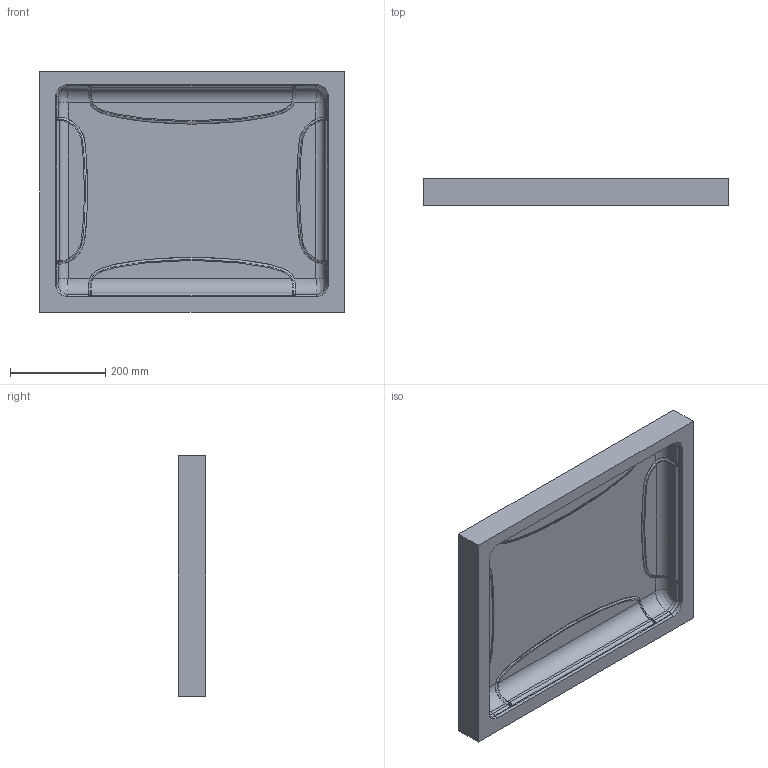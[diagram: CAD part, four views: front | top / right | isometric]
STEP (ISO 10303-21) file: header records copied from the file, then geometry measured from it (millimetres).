
FILE_DESCRIPTION (( 'STEP AP203' ), '1' );
FILE_NAME ('945_Top.STEP', '2014-06-12T13:43:01', ( 'Ben laptop' ), ( 'Microsoft' ), 'SwSTEP 2.0', 'SolidWorks 2014', '' );
FILE_SCHEMA (( 'CONFIG_CONTROL_DESIGN' ));
Length unit declared in the file: inch
Products named in the file (1): 945_Top
Bounding box: 638.12 x 57.84 x 505.43 mm (x, y, z)
Volume: 6196358.4 mm3; surface area: 849767.6 mm2
Topology: 1 solids, 1 shells, 227 faces, 520 edges, 296 vertices
Faces by surface type: bspline 140, cylinder 40, plane 27, torus 8, sphere 8, cone 4
Entity records: 25007 total; most frequent: CARTESIAN_POINT 20742, ORIENTED_EDGE 1040, DIRECTION 660, EDGE_CURVE 520, VERTEX_POINT 296, AXIS2_PLACEMENT_3D 284, EDGE_LOOP 228, ADVANCED_FACE 227
